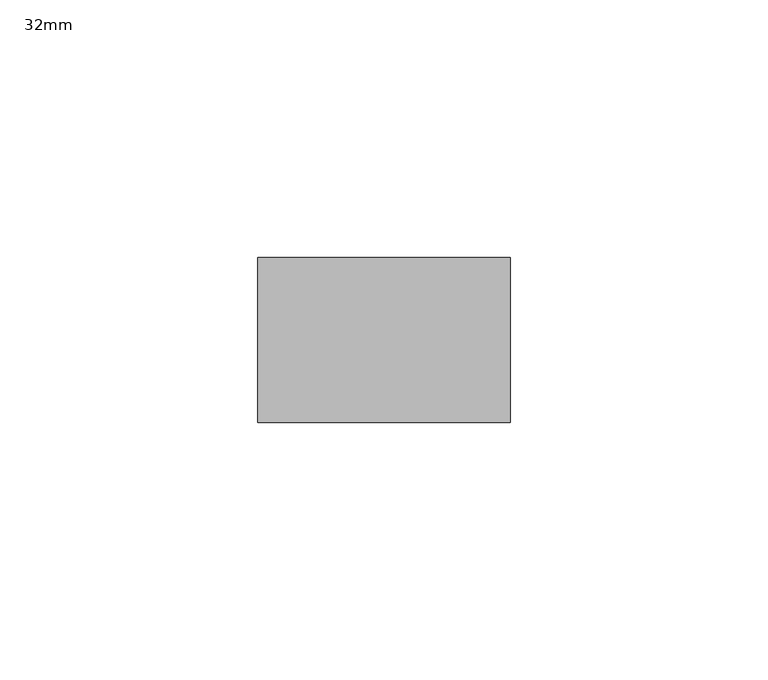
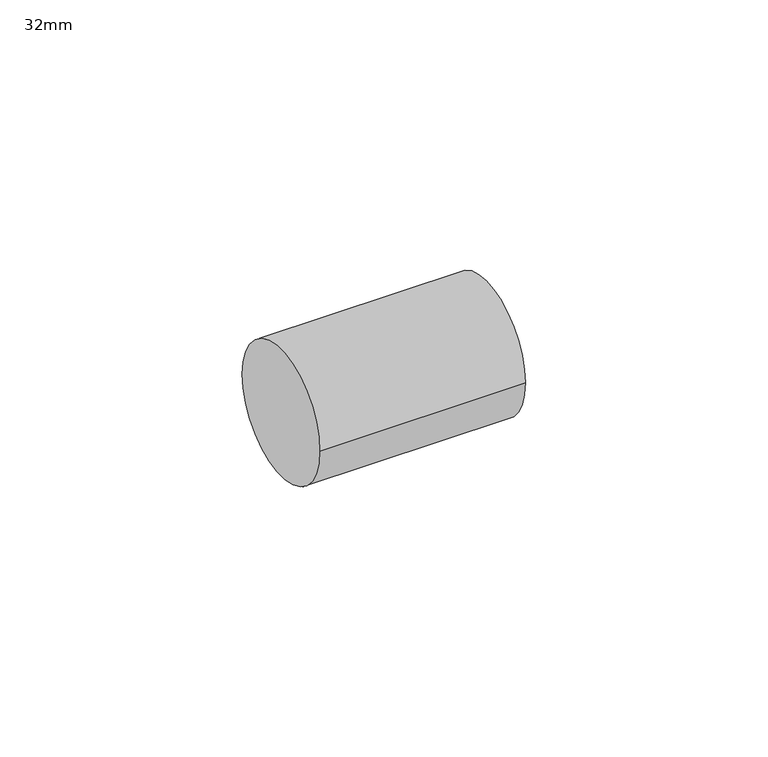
"""IFC4 building model written with IfcOpenShell, lengths in millimetres: pipe fitting geometry, PipeFitting_HTA_CPVC_PlainNipples : 32mm."""

import ifcopenshell
import ifcopenshell.guid

model = None  # the IFC model being written
_history = None  # IfcOwnerHistory: only IFC2X3 demands one
_inside = {}  # id of a spatial element -> (the spatial element, [elements in it])
_under = {}  # id of a project, library or spatial element -> (it, [spatial elements below it])
_declared = {}  # id of a project -> (the project, [libraries it declares])
_typed = {}  # id of a type object -> (the type object, [elements of that type])
_made_of = {}  # id of a material, layer set ... -> (it, [elements and type objects made of it])


def new_model(schema):
    """Start an empty IFC model of exactly this schema.

    Asked for "IFC4X3", IfcOpenShell would pick the latest addendum, in which some entities
    have other attributes; the version numbers below select the first issue.
    IFC2X3 requires an IfcOwnerHistory on every rooted entity: one is made here for all.
    """
    global model, _history
    if schema == "IFC4X3":
        model = ifcopenshell.file(schema_version=(4, 3, 0, 0))
    else:
        model = ifcopenshell.file(schema=schema)
    _inside.clear()
    _under.clear()
    _declared.clear()
    _typed.clear()
    _made_of.clear()
    _history = None
    if model.schema == "IFC2X3":
        org = make("IfcOrganization", Name="unknown")
        user = make(
            "IfcPersonAndOrganization",
            ThePerson=make("IfcPerson", FamilyName="unknown"),
            TheOrganization=org,
        )
        app = make(
            "IfcApplication",
            ApplicationDeveloper=org,
            Version="unknown",
            ApplicationFullName="unknown",
            ApplicationIdentifier="unknown",
        )
        _history = make(
            "IfcOwnerHistory",
            OwningUser=user,
            OwningApplication=app,
            ChangeAction="ADDED",
            CreationDate=0,
        )
    return model


def make(cls, **values):
    """One entity of the class cls with the attributes given. An attribute that is None is left unset."""
    return model.create_entity(
        cls, **{name: value for name, value in values.items() if value is not None}
    )


def rooted(cls, **values):
    """An entity with a GlobalId (a new one), such as an element, a storey or a relation."""
    return make(cls, GlobalId=ifcopenshell.guid.new(), OwnerHistory=_history, **values)


def si_unit(unit_type, name, prefix=None):
    """IfcSIUnit, for example si_unit("LENGTHUNIT", "METRE", prefix="MILLI")."""
    return make("IfcSIUnit", UnitType=unit_type, Prefix=prefix, Name=name)


def assignment(units):
    """IfcUnitAssignment: the units of a project."""
    return None if units is None else make("IfcUnitAssignment", Units=units)


def point(xyz):
    """IfcCartesianPoint."""
    return None if xyz is None else make("IfcCartesianPoint", Coordinates=xyz)


def direction(xyz):
    """IfcDirection."""
    return None if xyz is None else make("IfcDirection", DirectionRatios=xyz)


def frame(location, z_axis=None, x_axis=None):
    """IfcAxis2Placement3D, a coordinate frame: its origin and axes. An axis left out is left unset."""
    return make(
        "IfcAxis2Placement3D",
        Location=point(location),
        Axis=direction(z_axis),
        RefDirection=direction(x_axis),
    )


def frame_2d(location, x_axis=None):
    """IfcAxis2Placement2D, a coordinate frame in the plane: its origin and x axis."""
    return make(
        "IfcAxis2Placement2D", Location=point(location), RefDirection=direction(x_axis)
    )


def origin():
    """The frame at (0, 0, 0) with its axes left unset."""
    return frame((0.0, 0.0, 0.0))


def origin_2d():
    """The frame at (0, 0) in the plane with its x axis left unset."""
    return frame_2d((0.0, 0.0))


def place(relative_to, where):
    """IfcLocalPlacement: puts the frame where relative to a parent placement (None: the world)."""
    return make(
        "IfcLocalPlacement", PlacementRelTo=relative_to, RelativePlacement=where
    )


def context(
    kind, dimensions, precision=None, world=None, true_north=None, identifier=None
):
    """IfcGeometricRepresentationContext, for example the 3D "Model" context."""
    return make(
        "IfcGeometricRepresentationContext",
        ContextIdentifier=identifier,
        ContextType=kind,
        CoordinateSpaceDimension=dimensions,
        Precision=precision,
        WorldCoordinateSystem=world,
        TrueNorth=true_north,
    )


def project(units=None, contexts=None):
    """IfcProject with its units and contexts."""
    return rooted(
        "IfcProject",
        Name="project",
        RepresentationContexts=contexts,
        UnitsInContext=assignment(units),
    )


def spatial(cls, under=None, at=None, **own):
    """A site, building, storey or space (cls), placed at a placement, below another one or the project."""
    s = rooted(cls, ObjectPlacement=at, **own)
    if under is not None:
        _under.setdefault(under.id(), (under, []))[1].append(s)
    return s


def circle_curve(where, radius):
    """IfcCircle in the frame where."""
    return make("IfcCircle", Position=where, Radius=radius)


def trimmed(basis, trim1, trim2, sense, master):
    """IfcTrimmedCurve: the piece of a basis curve between two trims."""
    return make(
        "IfcTrimmedCurve",
        BasisCurve=basis,
        Trim1=trim1,
        Trim2=trim2,
        SenseAgreement=sense,
        MasterRepresentation=master,
    )


def segment(curve, same_sense, transition):
    """IfcCompositeCurveSegment."""
    return make(
        "IfcCompositeCurveSegment",
        Transition=transition,
        SameSense=same_sense,
        ParentCurve=curve,
    )


def composite_curve(segments, self_intersect=None):
    """IfcCompositeCurve: segments joined end to end."""
    return make("IfcCompositeCurve", Segments=segments, SelfIntersect=self_intersect)


def outline(outer, holes=None, kind="AREA"):
    """IfcArbitraryClosedProfileDef: a profile drawn as a closed curve; with holes, ...WithVoids."""
    if holes is None:
        return make("IfcArbitraryClosedProfileDef", ProfileType=kind, OuterCurve=outer)
    return make(
        "IfcArbitraryProfileDefWithVoids",
        ProfileType=kind,
        OuterCurve=outer,
        InnerCurves=holes,
    )


def extrude(swept, where, along, depth):
    """IfcExtrudedAreaSolid: the profile swept, set in the frame where, extruded along a direction by depth."""
    return make(
        "IfcExtrudedAreaSolid",
        SweptArea=swept,
        Position=where,
        ExtrudedDirection=direction(along),
        Depth=depth,
    )


def shape(context_of_items, identifier, shape_type, items):
    """IfcShapeRepresentation: the items that make up one representation, for example the "Body"."""
    return make(
        "IfcShapeRepresentation",
        ContextOfItems=context_of_items,
        RepresentationIdentifier=identifier,
        RepresentationType=shape_type,
        Items=items,
    )


def source(mapping_origin, context_of_items, identifier, shape_type, items):
    """IfcRepresentationMap: a shape defined once, which mapped items show again and again."""
    return make(
        "IfcRepresentationMap",
        MappingOrigin=mapping_origin,
        MappedRepresentation=shape(context_of_items, identifier, shape_type, items),
    )


def transform(
    local_origin,
    x_axis=None,
    y_axis=None,
    z_axis=None,
    scale=None,
    scale2=None,
    scale3=None,
    uniform=True,
):
    """IfcCartesianTransformationOperator3D, or its non-uniform kind. x_axis, y_axis, z_axis: its Axis1, 2, 3."""
    if uniform:
        return make(
            "IfcCartesianTransformationOperator3D",
            Axis1=direction(x_axis),
            Axis2=direction(y_axis),
            LocalOrigin=point(local_origin),
            Scale=scale,
            Axis3=direction(z_axis),
        )
    return make(
        "IfcCartesianTransformationOperator3DnonUniform",
        Axis1=direction(x_axis),
        Axis2=direction(y_axis),
        LocalOrigin=point(local_origin),
        Scale=scale,
        Axis3=direction(z_axis),
        Scale2=scale2,
        Scale3=scale3,
    )


def mapped(mapping_source, mapping_target):
    """IfcMappedItem: shows the shape of a source again, moved by a transform."""
    return make(
        "IfcMappedItem", MappingSource=mapping_source, MappingTarget=mapping_target
    )


def made_of(thing, what):
    """Note that an element or type object is made of a material, layer set ...; save() writes the relation."""
    if what is not None:
        _made_of.setdefault(what.id(), (what, []))[1].append(thing)
    return thing


def element(
    cls,
    number,
    at=None,
    inside=None,
    cuts=None,
    type_object=None,
    material=None,
    context=None,
    identifier="Body",
    shape_type=None,
    held_by="IfcProductDefinitionShape",
    body=None,
    shapes=None,
    **own,
):
    """One element of the class cls, such as IfcWall. Its Tag is "e" and its number.

    at: its placement. inside: the storey or other place that contains it. cuts: it is an
    opening in that element (IfcRelVoidsElement). A single representation is given by context,
    identifier, shape_type and body (its items); several are given by shapes. held_by: the class
    of the entity that holds the representations. save() writes the other relations.
    """
    e = rooted(cls, Tag="e%d" % number, ObjectPlacement=at, **own)
    if body is not None:
        shapes = [shape(context, identifier, shape_type, body)]
    if shapes is not None:
        e.Representation = make(held_by, Representations=shapes)
    if inside is not None:
        _inside.setdefault(inside.id(), (inside, []))[1].append(e)
    if cuts is not None:
        rooted(
            "IfcRelVoidsElement", RelatingBuildingElement=cuts, RelatedOpeningElement=e
        )
    if type_object is not None:
        _typed.setdefault(type_object.id(), (type_object, []))[1].append(e)
    return made_of(e, material)


def aggregate(whole, parts):
    """IfcRelAggregates: a whole, such as a stair, and the parts it consists of."""
    return rooted("IfcRelAggregates", RelatingObject=whole, RelatedObjects=parts)


def save(model, path):
    """Write the relations noted so far, then the file.

    IfcRelAggregates (storeys below a building ...), IfcRelContainedInSpatialStructure (elements
    in a storey), IfcRelDefinesByType, IfcRelAssociatesMaterial and IfcRelDeclares: one each for
    every whole, place, type object, material and project.
    """
    for whole, parts in _under.values():
        aggregate(whole, parts)
    for where, things in _inside.values():
        rooted(
            "IfcRelContainedInSpatialStructure",
            RelatedElements=things,
            RelatingStructure=where,
        )
    for kind, things in _typed.values():
        rooted("IfcRelDefinesByType", RelatedObjects=things, RelatingType=kind)
    for what, things in _made_of.values():
        rooted("IfcRelAssociatesMaterial", RelatedObjects=things, RelatingMaterial=what)
    for by, libraries in _declared.values():
        rooted("IfcRelDeclares", RelatingContext=by, RelatedDefinitions=libraries)
    model.write(path)


def pipe_fitting_32mm_188e78fc(model_context):
    return source(origin(), model_context, "Body", "SweptSolid", [
        extrude(outline(composite_curve([segment(trimmed(circle_curve(origin_2d(), 16.0), [point((-16.0, 0.0))], [point((16.0, 0.0))], False, "CARTESIAN"), True, "CONTINUOUS"), segment(trimmed(circle_curve(origin_2d(), 16.0), [point((16.0, 0.0))], [point((-16.0, 0.0))], False, "CARTESIAN"), True, "CONTINUOUS")], self_intersect=False)), frame((-24.5, 0.0, 0.0), z_axis=(1.0, 0.0, 0.0), x_axis=(0.0, 1.0, 0.0)), (0.0, 0.0, 1.0), 49.0),
    ])


if __name__ == "__main__":
    model = new_model("IFC4")
    model_context = context("Model", 3, world=origin())
    ifc_project = project(units=[si_unit("LENGTHUNIT", "METRE", prefix="MILLI")], contexts=[model_context])
    site = spatial("IfcSite", under=ifc_project)
    building = spatial("IfcBuilding", under=site)
    placement = place(None, origin())
    pipe_fitting_32mm_shape = pipe_fitting_32mm_188e78fc(model_context)
    element("IfcPipeFitting", 1, ObjectType="PipeFitting_HTA_CPVC_PlainNipples : 32mm", at=placement, inside=building, context=model_context, shape_type="MappedRepresentation", body=[
        mapped(pipe_fitting_32mm_shape, transform((0.0, 0.0, 0.0), x_axis=(1.0, 0.0, 0.0), y_axis=(0.0, 1.0, 0.0), z_axis=(0.0, 0.0, 1.0))),
    ])
    save(model, "model.ifc")
